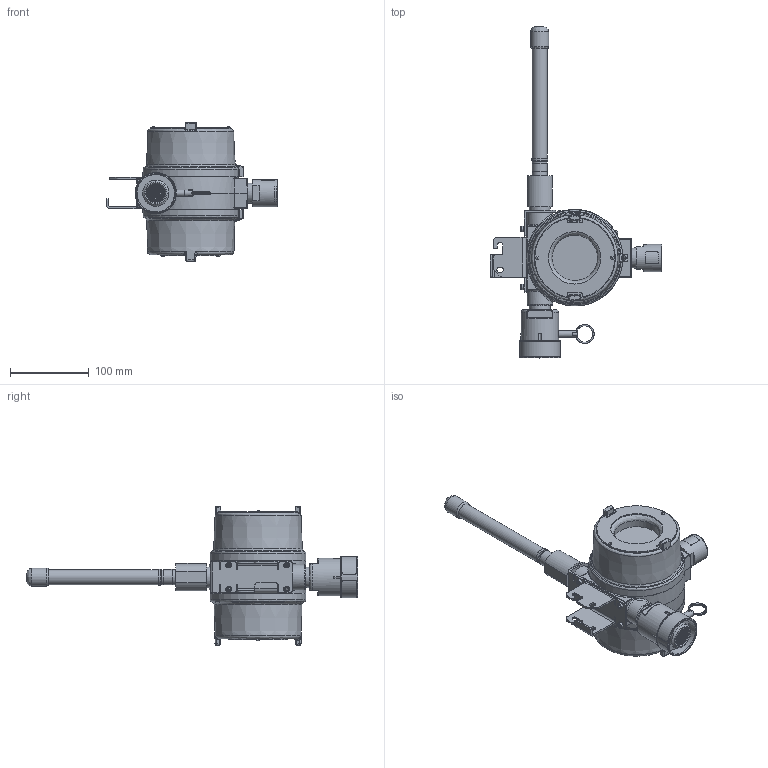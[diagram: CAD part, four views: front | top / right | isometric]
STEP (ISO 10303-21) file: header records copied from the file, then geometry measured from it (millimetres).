
FILE_DESCRIPTION (( 'STEP AP214' ), '1' );
FILE_NAME ('VGD-TCD60H3A03_07_V23.STEP', '2025-03-17T17:12:58', ( '' ), ( '' ), 'SwSTEP 2.0', 'SolidWorks 2023', '' );
FILE_SCHEMA (( 'AUTOMOTIVE_DESIGN' ));
Length unit declared in the file: inch
Products named in the file (1): VGD-TCD60H3A03_07_V23
Bounding box: 218.43 x 422.16 x 175.99 mm (x, y, z)
Surface area: 188371.5 mm2 (no closed solid volume)
Topology: 0 solids, 194 shells, 795 faces, 2251 edges, 1439 vertices
Faces by surface type: bspline 385, plane 187, cylinder 167, cone 39, sphere 11, torus 6
Full cylindrical faces by diameter (mm): 2.381 x1, 2.383 x2, 5.08 x1, 6.35 x3, 6.858 x4, 8.731 x1, 9.525 x1, 18.517 x1, 19.05 x3, 19.558 x1, 20.066 x1, 22.225 x2, 22.86 x2, 23.368 x1, 25.4 x1, 28.702 x1, 30.988 x1, 31.496 x1, 32.544 x2, 33.198 x1, 33.782 x1, 34.544 x1, 47.574 x1, 47.752 x1, 52.07 x1, 57.912 x1, 66.675 x1, 76.2 x1
Entity records: 49437 total; most frequent: CARTESIAN_POINT 32879, DIRECTION 3072, ORIENTED_EDGE 2975, EDGE_CURVE 1836, VERTEX_POINT 1334, AXIS2_PLACEMENT_3D 1269, EDGE_LOOP 1156, FACE_OUTER_BOUND 1069
